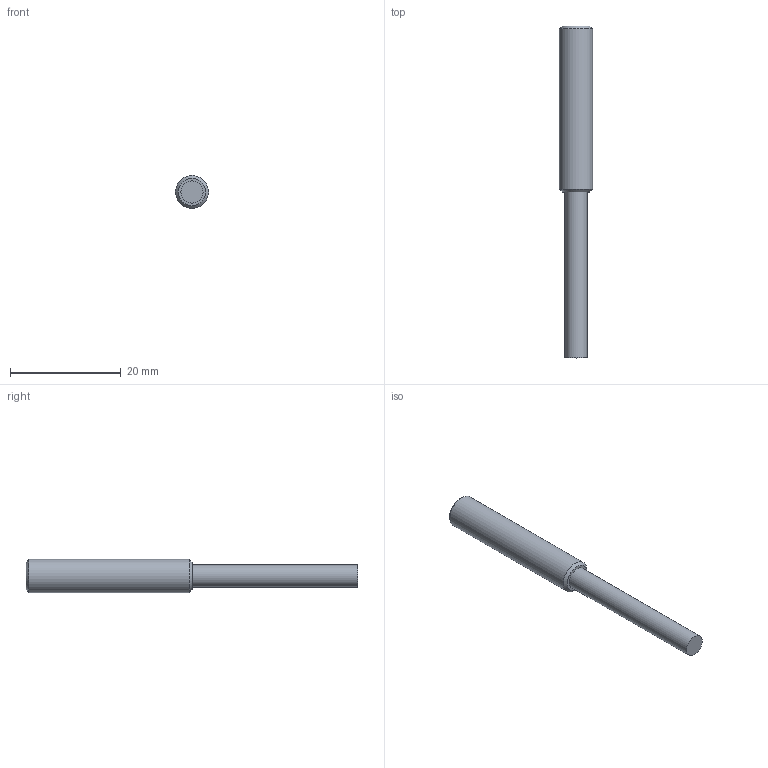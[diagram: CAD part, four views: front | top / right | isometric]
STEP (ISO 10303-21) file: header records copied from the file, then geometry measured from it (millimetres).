
FILE_DESCRIPTION(/* description */ ('Katalogmodell Elobau'),/* implementation_level */ '2;1');
FILE_NAME(/* name */ 'Katalogdaten.stp',/* time_stamp */ '2015-04-23T14:17:20+02:00',/* author */ ('Elobau GmbH & Co. KG'),/* organization */ ('Elobau GmbH & Co. KG'),/* preprocessor_version */ 'ST-DEVELOPER v15',/* originating_system */ 'SIEMENS PLM Software NX 8.5',/* authorisation */ '');
FILE_SCHEMA (('AUTOMOTIVE_DESIGN { 1 0 10303 214 3 1 1 1 }'));
Length unit declared in the file: millimetre
Products named in the file (1): 126..._A
Bounding box: 6 x 60 x 6 mm (x, y, z)
Volume: 1220.8 mm3; surface area: 987.3 mm2
Topology: 1 solids, 1 shells, 7 faces, 11 edges, 7 vertices
Faces by surface type: plane 3, cone 2, cylinder 2
Full cylindrical faces by diameter (mm): 4 x1, 6 x1
Entity records: 173 total; most frequent: DIRECTION 28, CARTESIAN_POINT 20, AXIS2_PLACEMENT_3D 14, EDGE_LOOP 12, ORIENTED_EDGE 12, FACE_BOUND 10, ADVANCED_FACE 7, VERTEX_POINT 6
